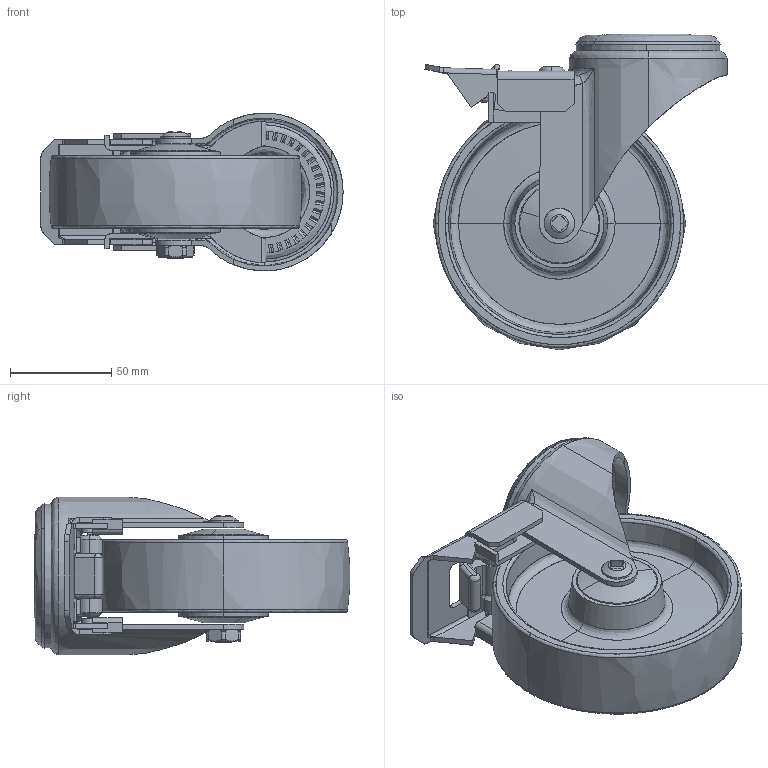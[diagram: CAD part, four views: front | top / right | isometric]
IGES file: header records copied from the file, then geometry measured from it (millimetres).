
Start section: SolidWorks IGES file using analytic representation for surfaces
Global section: file name: S:\Tyokansio\VL\LK\400544_IGES.IGS; native system: SolidWorks 2011; preprocessor: SolidWorks 2011; author: VilleLa; date: 110826.141846; units: millimetre
Bounding box: 149.27 x 155.84 x 78 mm (x, y, z)
Surface area: 110018.7 mm2 (no closed solid volume)
Topology: 0 solids, 0 shells, 521 faces, 7529 edges, 7525 vertices
Faces by surface type: bspline 327, revolution 194
